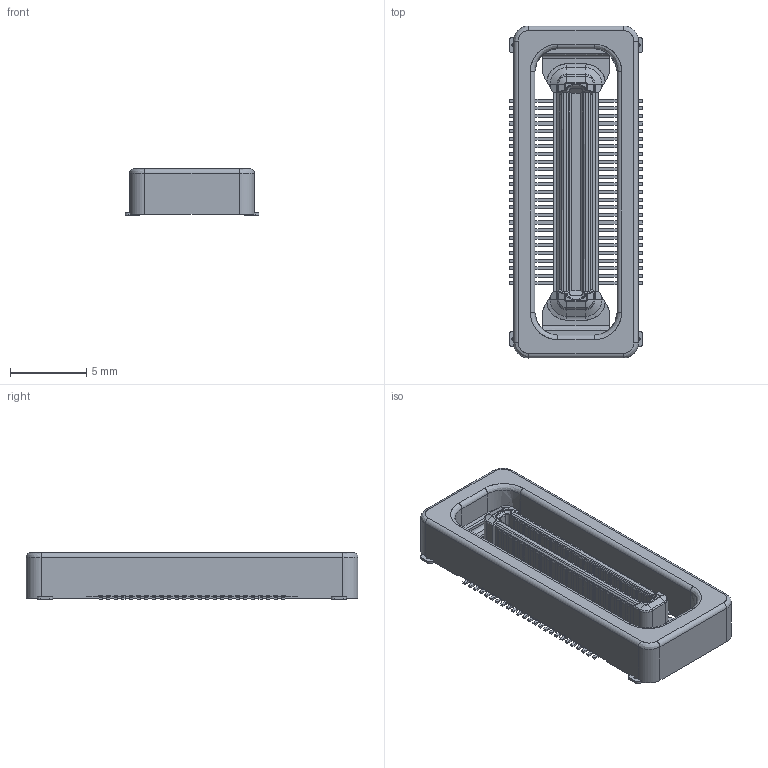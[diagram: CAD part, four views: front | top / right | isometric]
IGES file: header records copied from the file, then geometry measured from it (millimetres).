
Start section: SolidWorks IGES file using analytic representation for surfaces
Global section: file name: Q:\Kamikawa_Hisako\190710\MK_X4_5655_XXX_XXX_829+T\14_5655_XX0_00X_829+T\14_5655_XX0_000_829+T\14_5655_050_000_829+T.IGS; native system: SolidWorks 2017; preprocessor: SolidWorks 2017; author: HISAKO.KAMIKAWA.FJ; date: 190711.102539; units: millimetre
Bounding box: 8.8 x 21.8 x 3.05 mm (x, y, z)
Surface area: 805 mm2 (no closed solid volume)
Topology: 0 solids, 0 shells, 2057 faces, 12641 edges, 12641 vertices
Faces by surface type: bspline 1491, revolution 566
